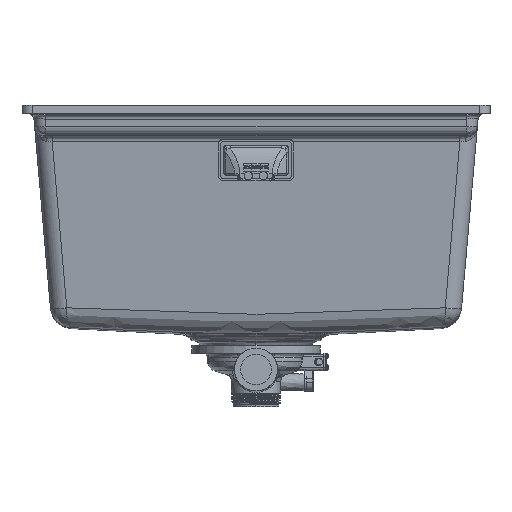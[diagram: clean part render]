
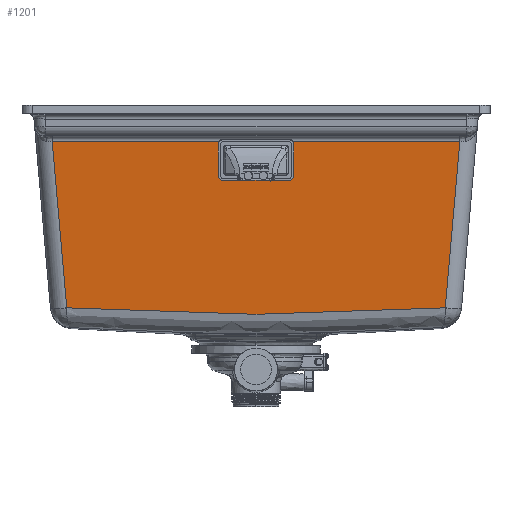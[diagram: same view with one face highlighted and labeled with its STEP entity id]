
A CAD part, front view. The second image highlights one B-rep face of the part: STEP entity #1201.
In plain terms, the highlighted planar face has unit normal (0, -0.996, -0.087).
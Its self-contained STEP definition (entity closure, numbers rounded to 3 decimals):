
#125=FACE_BOUND('',#5933,.T.);
#1201=ADVANCED_FACE('',(#3533,#125),#39566,.T.);
#3533=FACE_OUTER_BOUND('',#5932,.T.);
#5932=EDGE_LOOP('',(#12752,#12753,#12754,#12755));
#5933=EDGE_LOOP('',(#12756,#12757,#12758,#12759,#12760,#12761,#12762,#12763));
#12752=ORIENTED_EDGE('',*,*,#22445,.F.);
#12753=ORIENTED_EDGE('',*,*,#22404,.T.);
#12754=ORIENTED_EDGE('',*,*,#22439,.F.);
#12755=ORIENTED_EDGE('',*,*,#22526,.F.);
#12756=ORIENTED_EDGE('',*,*,#22313,.T.);
#12757=ORIENTED_EDGE('',*,*,#22527,.T.);
#12758=ORIENTED_EDGE('',*,*,#22528,.T.);
#12759=ORIENTED_EDGE('',*,*,#22529,.T.);
#12760=ORIENTED_EDGE('',*,*,#22319,.T.);
#12761=ORIENTED_EDGE('',*,*,#22530,.T.);
#12762=ORIENTED_EDGE('',*,*,#22531,.T.);
#12763=ORIENTED_EDGE('',*,*,#22532,.T.);
#22313=EDGE_CURVE('',#35574,#35576,#31488,.T.);
#22319=EDGE_CURVE('',#35582,#35568,#31494,.T.);
#22404=EDGE_CURVE('',#35649,#35650,#31548,.T.);
#22439=EDGE_CURVE('',#35627,#35650,#31568,.T.);
#22445=EDGE_CURVE('',#35649,#35624,#31571,.T.);
#22526=EDGE_CURVE('',#35624,#35627,#31615,.T.);
#22527=EDGE_CURVE('',#35576,#35578,#29352,.T.);
#22528=EDGE_CURVE('',#35578,#35580,#31616,.T.);
#22529=EDGE_CURVE('',#35580,#35582,#29353,.T.);
#22530=EDGE_CURVE('',#35568,#35569,#29354,.T.);
#22531=EDGE_CURVE('',#35569,#35572,#31617,.T.);
#22532=EDGE_CURVE('',#35572,#35574,#29355,.T.);
#29352=(
BOUNDED_CURVE()
B_SPLINE_CURVE(2,(#68065,#68066,#68067),.UNSPECIFIED.,.F.,.F.)
B_SPLINE_CURVE_WITH_KNOTS((3,3),(0.,14.027),.UNSPECIFIED.)
CURVE()
GEOMETRIC_REPRESENTATION_ITEM()
RATIONAL_B_SPLINE_CURVE((1.,0.707,1.))
REPRESENTATION_ITEM('')
);
#29353=(
BOUNDED_CURVE()
B_SPLINE_CURVE(2,(#68070,#68071,#68072),.UNSPECIFIED.,.F.,.F.)
B_SPLINE_CURVE_WITH_KNOTS((3,3),(0.,14.027),.UNSPECIFIED.)
CURVE()
GEOMETRIC_REPRESENTATION_ITEM()
RATIONAL_B_SPLINE_CURVE((1.,0.707,1.))
REPRESENTATION_ITEM('')
);
#29354=(
BOUNDED_CURVE()
B_SPLINE_CURVE(2,(#68073,#68074,#68075),.UNSPECIFIED.,.F.,.F.)
B_SPLINE_CURVE_WITH_KNOTS((3,3),(0.,14.027),.UNSPECIFIED.)
CURVE()
GEOMETRIC_REPRESENTATION_ITEM()
RATIONAL_B_SPLINE_CURVE((1.,0.707,1.))
REPRESENTATION_ITEM('')
);
#29355=(
BOUNDED_CURVE()
B_SPLINE_CURVE(2,(#68078,#68079,#68080),.UNSPECIFIED.,.F.,.F.)
B_SPLINE_CURVE_WITH_KNOTS((3,3),(0.,14.027),.UNSPECIFIED.)
CURVE()
GEOMETRIC_REPRESENTATION_ITEM()
RATIONAL_B_SPLINE_CURVE((1.,0.707,1.))
REPRESENTATION_ITEM('')
);
#31488=B_SPLINE_CURVE_WITH_KNOTS('',1,(#64927,#64928),.UNSPECIFIED.,.F.,
 .F.,(2,2),(-46.,0.),.UNSPECIFIED.);
#31494=B_SPLINE_CURVE_WITH_KNOTS('',1,(#64939,#64940),.UNSPECIFIED.,.F.,
 .F.,(2,2),(-46.,0.),.UNSPECIFIED.);
#31548=B_SPLINE_CURVE_WITH_KNOTS('',1,(#66211,#66212),.UNSPECIFIED.,.F.,
 .F.,(2,2),(-398.96,0.),.UNSPECIFIED.);
#31568=B_SPLINE_CURVE_WITH_KNOTS('',1,(#66752,#66753),.UNSPECIFIED.,.F.,
 .F.,(2,2),(0.,164.056),.UNSPECIFIED.);
#31571=B_SPLINE_CURVE_WITH_KNOTS('',1,(#66767,#66768),.UNSPECIFIED.,.F.,
 .F.,(2,2),(0.,164.056),.UNSPECIFIED.);
#31615=B_SPLINE_CURVE_WITH_KNOTS('',3,(#68031,#68032,#68033,#68034,#68035,
#68036,#68037,#68038,#68039,#68040,#68041,#68042,#68043,#68044,#68045,#68046,
#68047,#68048,#68049,#68050,#68051,#68052,#68053,#68054,#68055,#68056,#68057,
#68058,#68059,#68060,#68061,#68062,#68063,#68064),.UNSPECIFIED.,.F.,.F.,
(4,3,3,3,3,3,3,3,3,3,3,4),(-370.726,-301.821,-279.175,
-278.05,-232.284,-185.379,-185.367,
-138.48,-92.686,-91.577,-20.036,
0.),.UNSPECIFIED.);
#31616=B_SPLINE_CURVE_WITH_KNOTS('',1,(#68068,#68069),.UNSPECIFIED.,.F.,
 .F.,(2,2),(0.,10.038),.UNSPECIFIED.);
#31617=B_SPLINE_CURVE_WITH_KNOTS('',1,(#68076,#68077),.UNSPECIFIED.,.F.,
 .F.,(2,2),(0.,10.038),.UNSPECIFIED.);
#35568=VERTEX_POINT('',#64518);
#35569=VERTEX_POINT('',#64519);
#35572=VERTEX_POINT('',#64522);
#35574=VERTEX_POINT('',#64524);
#35576=VERTEX_POINT('',#64526);
#35578=VERTEX_POINT('',#64528);
#35580=VERTEX_POINT('',#64530);
#35582=VERTEX_POINT('',#64532);
#35624=VERTEX_POINT('',#64574);
#35627=VERTEX_POINT('',#64577);
#35649=VERTEX_POINT('',#64599);
#35650=VERTEX_POINT('',#64600);
#39566=PLANE('',#41915);
#41915=AXIS2_PLACEMENT_3D('',#62923,#45996,$);
#45996=DIRECTION('',(0.,-0.996,-0.087));
#62923=CARTESIAN_POINT('',(239.496,-300.13,-221.659));
#64518=CARTESIAN_POINT('',(-23.,-313.836,-65.));
#64519=CARTESIAN_POINT('',(-30.,-314.449,-58.));
#64522=CARTESIAN_POINT('',(-30.,-315.323,-48.));
#64524=CARTESIAN_POINT('',(-23.,-315.936,-41.));
#64526=CARTESIAN_POINT('',(23.,-315.936,-41.));
#64528=CARTESIAN_POINT('',(30.,-315.323,-48.));
#64530=CARTESIAN_POINT('',(30.,-314.449,-58.));
#64532=CARTESIAN_POINT('',(23.,-313.836,-65.));
#64574=CARTESIAN_POINT('',(185.236,-302.175,-198.291));
#64577=CARTESIAN_POINT('',(-185.236,-302.175,-198.291));
#64599=CARTESIAN_POINT('',(199.48,-316.419,-35.477));
#64600=CARTESIAN_POINT('',(-199.48,-316.419,-35.477));
#64927=CARTESIAN_POINT('',(-23.,-315.936,-41.));
#64928=CARTESIAN_POINT('',(23.,-315.936,-41.));
#64939=CARTESIAN_POINT('',(23.,-313.836,-65.));
#64940=CARTESIAN_POINT('',(-23.,-313.836,-65.));
#66211=CARTESIAN_POINT('',(199.48,-316.419,-35.477));
#66212=CARTESIAN_POINT('',(-199.48,-316.419,-35.477));
#66752=CARTESIAN_POINT('',(-185.236,-302.175,-198.291));
#66753=CARTESIAN_POINT('',(-199.48,-316.419,-35.477));
#66767=CARTESIAN_POINT('',(199.48,-316.419,-35.477));
#66768=CARTESIAN_POINT('',(185.236,-302.175,-198.291));
#68031=CARTESIAN_POINT('',(185.236,-302.175,-198.291));
#68032=CARTESIAN_POINT('',(162.294,-302.078,-199.392));
#68033=CARTESIAN_POINT('',(139.351,-301.984,-200.471));
#68034=CARTESIAN_POINT('',(116.404,-301.898,-201.451));
#68035=CARTESIAN_POINT('',(108.862,-301.87,-201.773));
#68036=CARTESIAN_POINT('',(101.32,-301.843,-202.084));
#68037=CARTESIAN_POINT('',(93.777,-301.817,-202.382));
#68038=CARTESIAN_POINT('',(93.403,-301.816,-202.397));
#68039=CARTESIAN_POINT('',(93.028,-301.814,-202.411));
#68040=CARTESIAN_POINT('',(92.653,-301.813,-202.426));
#68041=CARTESIAN_POINT('',(77.41,-301.761,-203.025));
#68042=CARTESIAN_POINT('',(62.164,-301.713,-203.564));
#68043=CARTESIAN_POINT('',(46.913,-301.679,-203.961));
#68044=CARTESIAN_POINT('',(31.286,-301.643,-204.368));
#68045=CARTESIAN_POINT('',(15.648,-301.621,-204.616));
#68046=CARTESIAN_POINT('',(0.016,-301.621,-204.616));
#68047=CARTESIAN_POINT('',(0.012,-301.621,-204.616));
#68048=CARTESIAN_POINT('',(0.008,-301.621,-204.616));
#68049=CARTESIAN_POINT('',(0.004,-301.621,-204.616));
#68050=CARTESIAN_POINT('',(-15.625,-301.621,-204.616));
#68051=CARTESIAN_POINT('',(-31.251,-301.643,-204.369));
#68052=CARTESIAN_POINT('',(-46.875,-301.679,-203.962));
#68053=CARTESIAN_POINT('',(-62.134,-301.713,-203.565));
#68054=CARTESIAN_POINT('',(-77.391,-301.76,-203.026));
#68055=CARTESIAN_POINT('',(-92.643,-301.813,-202.426));
#68056=CARTESIAN_POINT('',(-93.013,-301.814,-202.412));
#68057=CARTESIAN_POINT('',(-93.382,-301.815,-202.397));
#68058=CARTESIAN_POINT('',(-93.752,-301.817,-202.383));
#68059=CARTESIAN_POINT('',(-117.58,-301.899,-201.442));
#68060=CARTESIAN_POINT('',(-141.402,-301.993,-200.367));
#68061=CARTESIAN_POINT('',(-165.223,-302.091,-199.244));
#68062=CARTESIAN_POINT('',(-171.894,-302.119,-198.93));
#68063=CARTESIAN_POINT('',(-178.565,-302.147,-198.611));
#68064=CARTESIAN_POINT('',(-185.236,-302.175,-198.291));
#68065=CARTESIAN_POINT('',(23.,-315.936,-41.));
#68066=CARTESIAN_POINT('',(30.,-315.936,-41.));
#68067=CARTESIAN_POINT('',(30.,-315.323,-48.));
#68068=CARTESIAN_POINT('',(30.,-315.323,-48.));
#68069=CARTESIAN_POINT('',(30.,-314.449,-58.));
#68070=CARTESIAN_POINT('',(30.,-314.449,-58.));
#68071=CARTESIAN_POINT('',(30.,-313.836,-65.));
#68072=CARTESIAN_POINT('',(23.,-313.836,-65.));
#68073=CARTESIAN_POINT('',(-23.,-313.836,-65.));
#68074=CARTESIAN_POINT('',(-30.,-313.836,-65.));
#68075=CARTESIAN_POINT('',(-30.,-314.449,-58.));
#68076=CARTESIAN_POINT('',(-30.,-314.449,-58.));
#68077=CARTESIAN_POINT('',(-30.,-315.323,-48.));
#68078=CARTESIAN_POINT('',(-30.,-315.323,-48.));
#68079=CARTESIAN_POINT('',(-30.,-315.936,-41.));
#68080=CARTESIAN_POINT('',(-23.,-315.936,-41.));
